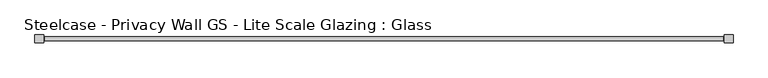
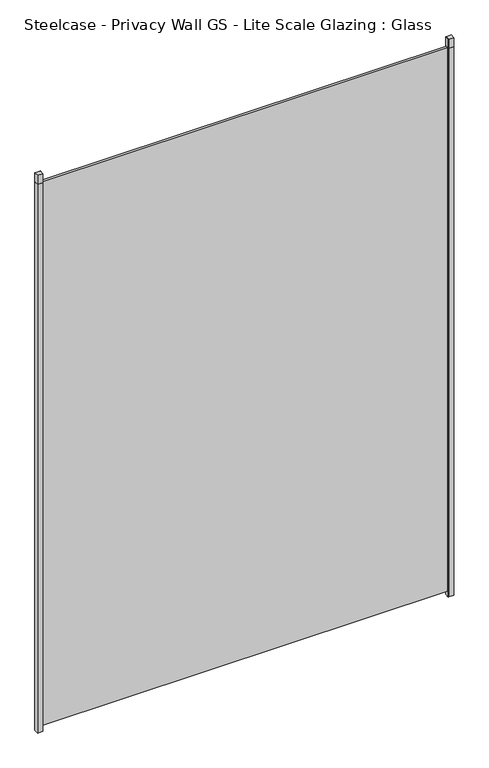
"""IFC4 building model written with IfcOpenShell, lengths in millimetres: plate geometry, Steelcase - Privacy Wall GS - Lite Scale Glazing : Glass."""

from ifc_helpers import new_model, si_unit, frame, origin, origin_with_axes, place, context, project, spatial, polyline, outline, extrude, source, transform, mapped, element, save


def steelcase_privacy_wall_gs_lite_scale_glazing_glass_3fe1f831(model_context):
    return source(origin(), model_context, "Body", "SweptSolid", [
        extrude(outline(polyline([(1049.1226121, 11.7474777), (1076.1100788, 11.7474777), (1076.1100788, -11.7475002), (1049.1226121, -11.7475002), (1049.1226121, 11.7474777)])), frame((0.0, 0.0, 2970.784), z_axis=(0.0, 0.0, 1.0), x_axis=(1.0, 0.0, 0.0)), (0.0, 0.0, 1.0), 49.276),
        extrude(outline(polyline([(1076.1100788, 11.7474777), (1076.1100788, -11.7475002), (1049.1226121, -11.7475002), (1049.1226121, -6.3896792), (1071.6178539, -6.3896792), (1071.6178539, 6.3500051), (1049.1226121, 6.3500051), (1049.1226121, 11.7474777), (1076.1100788, 11.7474777)])), frame((0.0, 0.0, -27.8638004), z_axis=(0.0, 0.0, 1.0), x_axis=(1.0, 0.0, 0.0)), (0.0, 0.0, 1.0), 2998.6478004),
        extrude(outline(polyline([(1049.1226121, 11.7474777), (1049.1226121, -11.7474954), (1048.0938831, -11.7474954), (1048.0938831, 11.7474777), (1049.1226121, 11.7474777)])), frame((0.0, 0.0, -27.8638004), z_axis=(0.0, 0.0, 1.0), x_axis=(1.0, 0.0, 0.0)), (0.0, 0.0, 1.0), 3047.9238004),
        extrude(outline(polyline([(-1049.1226121, 11.7474777), (-1049.1226121, -11.7475002), (-1076.1100788, -11.7475002), (-1076.1100788, 11.7474777), (-1049.1226121, 11.7474777)])), frame((0.0, 0.0, 2970.784), z_axis=(0.0, 0.0, 1.0), x_axis=(1.0, 0.0, 0.0)), (0.0, 0.0, 1.0), 49.276),
        extrude(outline(polyline([(-1076.1100788, 11.7474777), (-1049.1226121, 11.7474777), (-1049.1226121, 6.3500051), (-1071.6178539, 6.3500051), (-1071.6178539, -6.3896792), (-1049.1226121, -6.3896792), (-1049.1226121, -11.7475002), (-1076.1100788, -11.7475002), (-1076.1100788, 11.7474777)])), frame((0.0, 0.0, -27.8638004), z_axis=(0.0, 0.0, 1.0), x_axis=(1.0, 0.0, 0.0)), (0.0, 0.0, 1.0), 2998.6478004),
        extrude(outline(polyline([(-1049.1226121, 11.7474777), (-1048.0938831, 11.7474777), (-1048.0938831, -11.7474954), (-1049.1226121, -11.7474954), (-1049.1226121, 11.7474777)])), frame((0.0, 0.0, -27.8638004), z_axis=(0.0, 0.0, 1.0), x_axis=(1.0, 0.0, 0.0)), (0.0, 0.0, 1.0), 3047.9238004),
        extrude(outline(polyline([(-1046.0618831, -6.349956), (-1046.0618831, 6.3502015), (1046.0618831, 6.3502015), (1046.0618831, -6.349956), (-1046.0618831, -6.349956)])), origin_with_axes(), (0.0, 0.0, 1.0), 2970.784),
    ])


if __name__ == "__main__":
    model = new_model("IFC4")
    model_context = context("Model", 3, world=origin())
    ifc_project = project(units=[si_unit("LENGTHUNIT", "METRE", prefix="MILLI")], contexts=[model_context])
    site = spatial("IfcSite", under=ifc_project)
    building = spatial("IfcBuilding", under=site)
    placement = place(None, origin())
    steelcase_privacy_wall_gs_lite_scale_glazing_glass_shape = steelcase_privacy_wall_gs_lite_scale_glazing_glass_3fe1f831(model_context)
    element("IfcPlate", 1, ObjectType="Steelcase - Privacy Wall GS - Lite Scale Glazing : Glass", at=placement, inside=building, context=model_context, shape_type="MappedRepresentation", body=[
        mapped(steelcase_privacy_wall_gs_lite_scale_glazing_glass_shape, transform((0.0, 0.0, 0.0), x_axis=(1.0, 0.0, 0.0), y_axis=(0.0, 1.0, 0.0), z_axis=(0.0, 0.0, 1.0))),
    ])
    save(model, "model.ifc")
